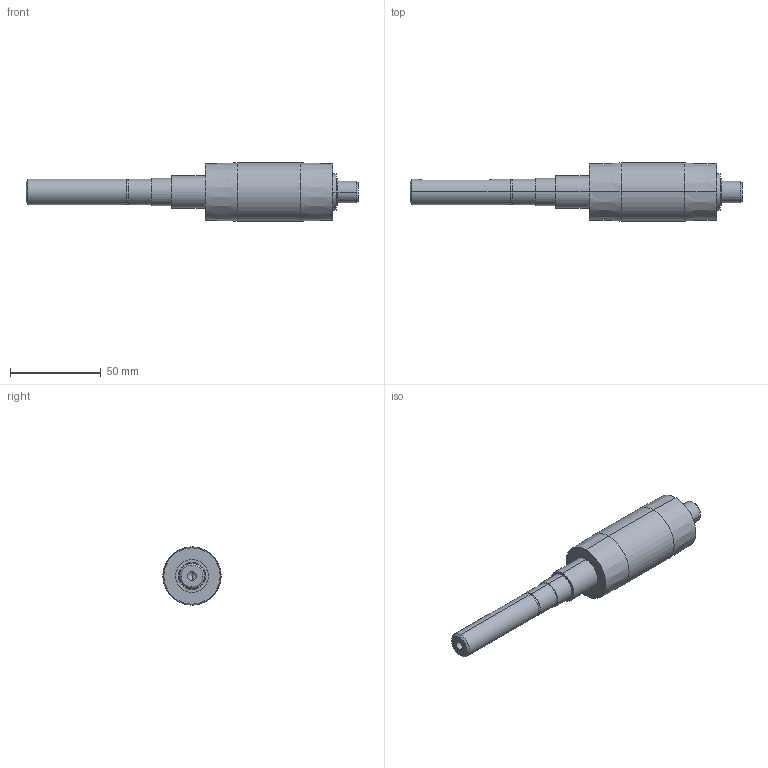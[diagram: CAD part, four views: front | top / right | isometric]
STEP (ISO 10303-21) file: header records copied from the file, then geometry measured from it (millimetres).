
FILE_DESCRIPTION (( 'STEP AP214' ), '1' );
FILE_NAME ('084.030.131.STEP', '2021-02-05T15:41:56', ( '' ), ( '' ), 'SwSTEP 2.0', 'SolidWorks 2018', '' );
FILE_SCHEMA (( 'AUTOMOTIVE_DESIGN' ));
Length unit declared in the file: millimetre
Products named in the file (1): 084.030.131
Bounding box: 182.5 x 32 x 32 mm (x, y, z)
Volume: 73719 mm3; surface area: 14203.3 mm2
Topology: 1 solids, 1 shells, 45 faces, 92 edges, 57 vertices
Faces by surface type: cylinder 22, plane 13, cone 10
Entity records: 1296 total; most frequent: CARTESIAN_POINT 255, DIRECTION 230, ORIENTED_EDGE 180, AXIS2_PLACEMENT_3D 96, EDGE_CURVE 90, VERTEX_POINT 57, EDGE_LOOP 55, CIRCLE 50
